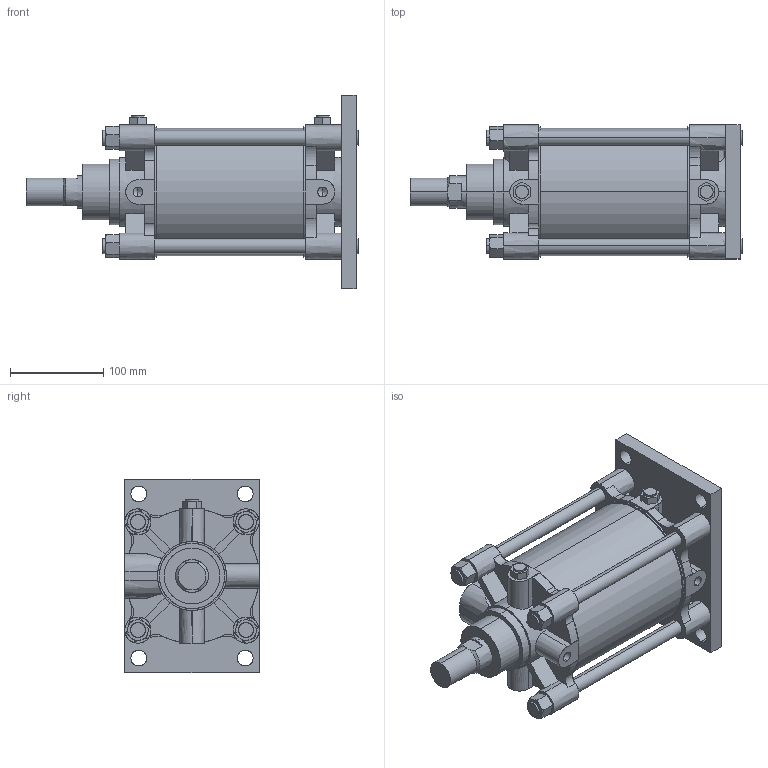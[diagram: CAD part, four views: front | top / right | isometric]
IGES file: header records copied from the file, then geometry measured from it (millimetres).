
Start section: SolidWorks IGES file using analytic representation for surfaces
Global section: file name: C:\Users\Toshiba\Desktop\A##2-125#-100-B.IGS; native system: SolidWorks 2014; preprocessor: SolidWorks 2014; author: Toshiba; date: 160331.145030; units: millimetre
Bounding box: 356 x 144 x 208 mm (x, y, z)
Surface area: 414589.4 mm2 (no closed solid volume)
Topology: 0 solids, 0 shells, 346 faces, 6716 edges, 6704 vertices
Faces by surface type: bspline 182, revolution 164
